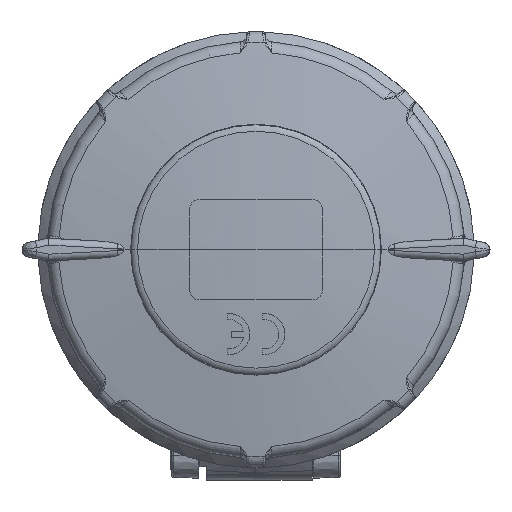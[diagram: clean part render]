
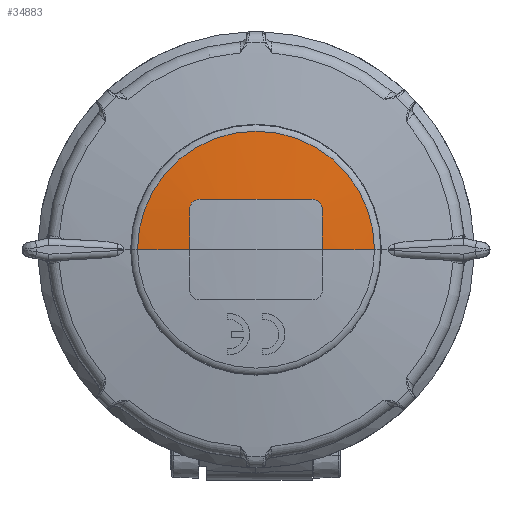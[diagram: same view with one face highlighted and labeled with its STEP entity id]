
A CAD part, top view. The second image highlights one B-rep face of the part: STEP entity #34883.
In plain terms, the highlighted spherical face has radius 232.5 mm.
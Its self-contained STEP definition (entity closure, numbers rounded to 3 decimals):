
#2386=CARTESIAN_POINT('',(-14.5,0.,-216.457));
#2387=DIRECTION('',(1.,0.,0.));
#2388=DIRECTION('',(0.,0.039,0.999));
#2389=AXIS2_PLACEMENT_3D('',#2386,#2387,#2388);
#2391=CARTESIAN_POINT('',(0.,0.,-216.457));
#2392=DIRECTION('',(0.,1.,0.));
#2393=DIRECTION('',(-0.112,0.,0.994));
#2394=AXIS2_PLACEMENT_3D('',#2391,#2392,#2393);
#2396=CARTESIAN_POINT('',(0.,0.,14.587));
#2397=DIRECTION('',(0.,0.,1.));
#2398=DIRECTION('',(1.,0.,0.));
#2399=AXIS2_PLACEMENT_3D('',#2396,#2397,#2398);
#2401=CARTESIAN_POINT('',(0.,0.,-216.457));
#2402=DIRECTION('',(0.,-1.,0.));
#2403=DIRECTION('',(0.112,0.,0.994));
#2404=AXIS2_PLACEMENT_3D('',#2401,#2402,#2403);
#2406=CARTESIAN_POINT('',(14.5,0.,-216.457));
#2407=DIRECTION('',(-1.,0.,0.));
#2408=DIRECTION('',(0.,0.,1.));
#2409=AXIS2_PLACEMENT_3D('',#2406,#2407,#2408);
#2411=CARTESIAN_POINT('',(12.5,11.,15.446));
#2412=CARTESIAN_POINT('',(12.631,11.,15.439));
#2413=CARTESIAN_POINT('',(12.893,10.974,15.426));
#2414=CARTESIAN_POINT('',(13.271,10.859,15.41));
#2415=CARTESIAN_POINT('',(13.619,10.673,15.398));
#2416=CARTESIAN_POINT('',(13.924,10.423,15.391));
#2417=CARTESIAN_POINT('',(14.174,10.118,15.39));
#2418=CARTESIAN_POINT('',(14.36,9.77,15.393));
#2419=CARTESIAN_POINT('',(14.474,9.393,15.402));
#2420=CARTESIAN_POINT('',(14.5,9.131,15.411));
#2421=CARTESIAN_POINT('',(14.5,9.,15.416));
#2423=CARTESIAN_POINT('',(0.,11.,-216.457));
#2424=DIRECTION('',(0.,-1.,0.));
#2425=DIRECTION('',(0.054,0.,0.999));
#2426=AXIS2_PLACEMENT_3D('',#2423,#2424,#2425);
#2428=CARTESIAN_POINT('',(-14.5,9.,15.416));
#2429=CARTESIAN_POINT('',(-14.5,9.131,15.411));
#2430=CARTESIAN_POINT('',(-14.474,9.393,15.402));
#2431=CARTESIAN_POINT('',(-14.36,9.77,15.393));
#2432=CARTESIAN_POINT('',(-14.174,10.118,15.39));
#2433=CARTESIAN_POINT('',(-13.924,10.423,15.391));
#2434=CARTESIAN_POINT('',(-13.619,10.673,15.398));
#2435=CARTESIAN_POINT('',(-13.271,10.859,15.41));
#2436=CARTESIAN_POINT('',(-12.893,10.974,15.426));
#2437=CARTESIAN_POINT('',(-12.631,11.,15.439));
#2438=CARTESIAN_POINT('',(-12.5,11.,15.446));
#28366=CARTESIAN_POINT('',(25.973,0.,14.587));
#28367=CARTESIAN_POINT('',(-25.973,0.,14.587));
#28368=VERTEX_POINT('',#28366);
#28369=VERTEX_POINT('',#28367);
#28477=CARTESIAN_POINT('',(-14.5,0.,15.59));
#28478=VERTEX_POINT('',#28477);
#28482=CARTESIAN_POINT('',(14.5,0.,15.59));
#28484=VERTEX_POINT('',#28482);
#28489=CARTESIAN_POINT('',(-14.5,9.,15.416));
#28490=VERTEX_POINT('',#28489);
#28493=VERTEX_POINT('',#2438);
#28495=CARTESIAN_POINT('',(12.5,11.,15.446));
#28496=VERTEX_POINT('',#28495);
#28499=VERTEX_POINT('',#2421);
#34861=CARTESIAN_POINT('',(0.,0.,-216.457));
#34862=DIRECTION('',(0.,0.,-1.));
#34863=DIRECTION('',(-1.,0.,0.));
#34864=AXIS2_PLACEMENT_3D('',#34861,#34862,#34863);
#34865=SPHERICAL_SURFACE('1710',#34864,232.5);
#34867=ORIENTED_EDGE('5897',*,*,#34866,.T.);
#34869=ORIENTED_EDGE('5909',*,*,#34868,.F.);
#34870=ORIENTED_EDGE('5814',*,*,#34843,.F.);
#34872=ORIENTED_EDGE('5907',*,*,#34871,.T.);
#34874=ORIENTED_EDGE('5905',*,*,#34873,.T.);
#34876=ORIENTED_EDGE('5903',*,*,#34875,.F.);
#34878=ORIENTED_EDGE('5901',*,*,#34877,.T.);
#34880=ORIENTED_EDGE('5899',*,*,#34879,.F.);
#34881=EDGE_LOOP('1710',(#34867,#34869,#34870,#34872,#34874,#34876,#34878,
#34880));
#34882=FACE_OUTER_BOUND('1710',#34881,.F.);
#2390=CIRCLE('5897',#2389,232.047);
#2395=CIRCLE('5909',#2394,232.5);
#2400=CIRCLE('5814',#2399,25.973);
#2405=CIRCLE('5907',#2404,232.5);
#2410=CIRCLE('5905',#2409,232.047);
#2422=B_SPLINE_CURVE_WITH_KNOTS('5903',3,(#2411,#2412,#2413,#2414,#2415,#2416,
#2417,#2418,#2419,#2420,#2421),.UNSPECIFIED.,.F.,.F.,(4,1,1,1,1,1,1,1,4),(0.,
0.125,0.25,0.375,0.5,0.625,0.75,0.875,1.),.UNSPECIFIED.);
#2427=CIRCLE('5901',#2426,232.24);
#2439=B_SPLINE_CURVE_WITH_KNOTS('5899',3,(#2428,#2429,#2430,#2431,#2432,#2433,
#2434,#2435,#2436,#2437,#2438),.UNSPECIFIED.,.F.,.F.,(4,1,1,1,1,1,1,1,4),(0.,
0.125,0.25,0.375,0.5,0.625,0.75,0.875,1.),.UNSPECIFIED.);
#34843=EDGE_CURVE('5814',#28368,#28369,#2400,.T.);
#34866=EDGE_CURVE('5897',#28490,#28478,#2390,.T.);
#34868=EDGE_CURVE('5909',#28369,#28478,#2395,.T.);
#34871=EDGE_CURVE('5907',#28368,#28484,#2405,.T.);
#34873=EDGE_CURVE('5905',#28484,#28499,#2410,.T.);
#34875=EDGE_CURVE('5903',#28496,#28499,#2422,.T.);
#34877=EDGE_CURVE('5901',#28496,#28493,#2427,.T.);
#34879=EDGE_CURVE('5899',#28490,#28493,#2439,.T.);
#34883=ADVANCED_FACE('1710',(#34882),#34865,.T.);
